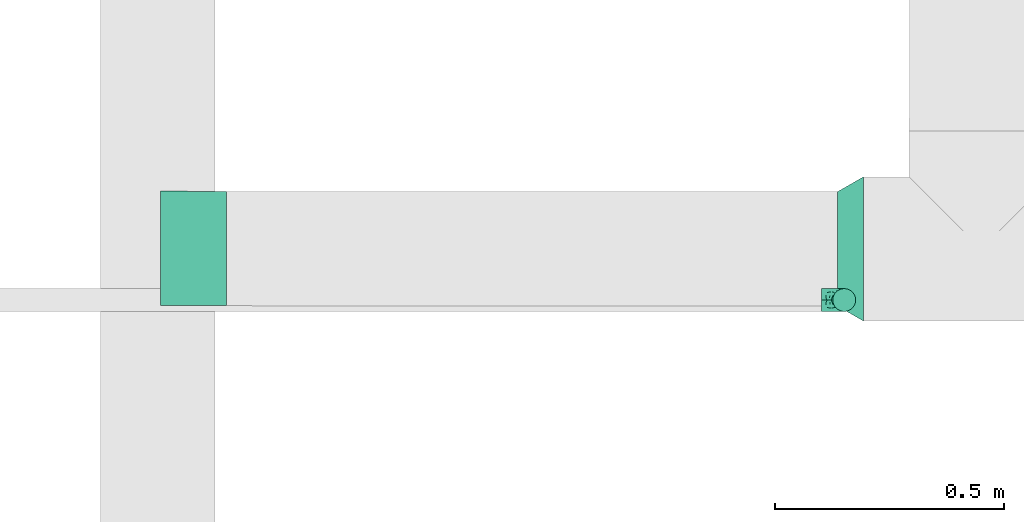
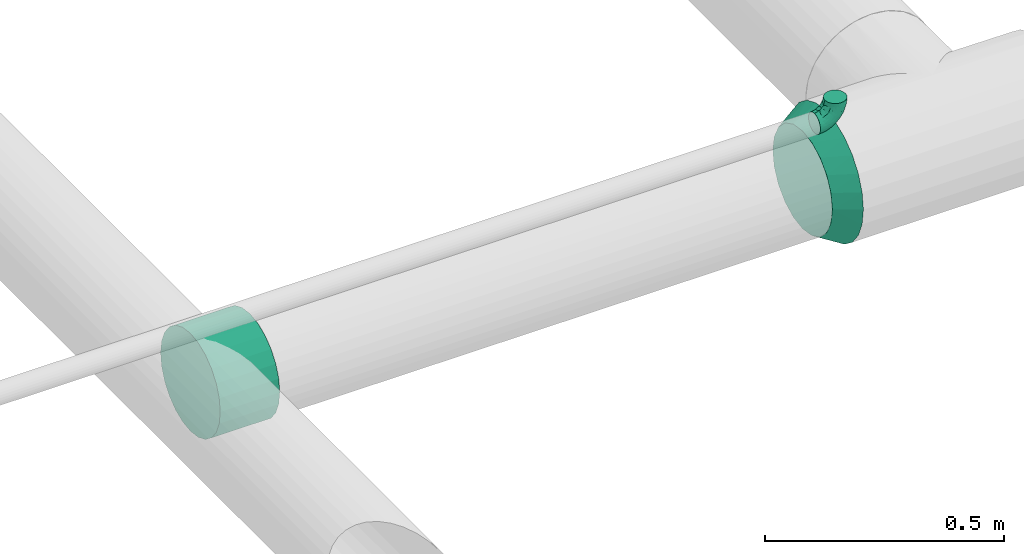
# One storey, part 26 of 63: 3 flow fittings.
"""IFC2X3 building model written with IfcOpenShell, lengths in millimetres."""

from ifc_helpers import new_model, entity, si_unit, converted_unit, derived_unit, direction, frame, origin_with_axes, place, context, subcontext, project, spatial, open_shell, surface_model, source, transform, mapped, type_object, element, save


model = new_model("IFC2X3")

# Units and contexts
model_context = context("Model", 3, precision=0.01, world=frame((0.0, 4.29681676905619e-09, 0.0)), true_north=direction((4.01073788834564e-13, 1.0)))
plan_context = context("Plan", 3, precision=0.01, world=frame((0.0, 4.29681676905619e-09, 0.0)), true_north=direction((4.01073788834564e-13, 1.0)))
body_context = subcontext(model_context, "Body", "Model", "MODEL_VIEW")
ifc_project = project(units=[converted_unit("PLANEANGLEUNIT", "DEGREE", entity("IfcPositiveLengthMeasure", 0.0174532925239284), si_unit("PLANEANGLEUNIT", "RADIAN"), dimensions=[0, 0, 0, 0, 0, 0, 0]), si_unit("AREAUNIT", "SQUARE_METRE"), si_unit("LENGTHUNIT", "METRE", prefix="MILLI"), si_unit("MASSUNIT", "GRAM", prefix="KILO"), si_unit("POWERUNIT", "WATT"), si_unit("PRESSUREUNIT", "PASCAL"), si_unit("FORCEUNIT", "NEWTON", prefix="KILO"), si_unit("ELECTRICVOLTAGEUNIT", "VOLT"), si_unit("ELECTRICCURRENTUNIT", "AMPERE"), si_unit("THERMODYNAMICTEMPERATUREUNIT", "DEGREE_CELSIUS"), si_unit("TIMEUNIT", "SECOND"), si_unit("VOLUMEUNIT", "CUBIC_METRE"), derived_unit("LINEARVELOCITYUNIT", [(si_unit("LENGTHUNIT", "METRE"), 1), (si_unit("TIMEUNIT", "SECOND"), -1)]), derived_unit("VOLUMETRICFLOWRATEUNIT", [(si_unit("VOLUMEUNIT", "CUBIC_METRE"), 1), (si_unit("TIMEUNIT", "SECOND"), -1)]), derived_unit("THERMALTRANSMITTANCEUNIT", [(si_unit("POWERUNIT", "WATT"), 1), (si_unit("THERMODYNAMICTEMPERATUREUNIT", "KELVIN"), -1), (si_unit("AREAUNIT", "SQUARE_METRE"), -1)]), derived_unit("SOUNDPRESSUREUNIT", [(si_unit("PRESSUREUNIT", "PASCAL"), 1)])], contexts=[model_context, plan_context])

# Site, building, storey
site_placement = place(None, frame((0.0, -4.29681676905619e-09, 0.0), z_axis=(0.0, 0.0, 1.0), x_axis=(1.0, 0.0, 0.0)))
site = spatial("IfcSite", under=ifc_project, at=site_placement, CompositionType="ELEMENT")
building_placement = place(site_placement, frame((0.0, 4.29681676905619e-09, 0.0), z_axis=(0.0, 0.0, 1.0), x_axis=(1.0, 0.0, 0.0)))
building = spatial("IfcBuilding", under=site, at=building_placement, Name="mc-building", CompositionType="ELEMENT")
storey_placement = place(building_placement, frame((0.0, 0.0, 210900.0), z_axis=(0.0, 0.0, 1.0), x_axis=(1.0, 0.0, 0.0)))
storey = spatial("IfcBuildingStorey", under=building, at=storey_placement, Name="Nivå F", CompositionType="ELEMENT", Elevation=210900.0)

# Flow fittings
duct_fitting_type_1 = type_object("IfcDuctFittingType", Name="magicirc_reduction_001", PredefinedType="TRANSITION")
shared_shape_1 = source(origin_with_axes(), body_context, "Body", "SurfaceModel", [
    surface_model("IfcShellBasedSurfaceModel", [(0.0, 78.75, 136.39901), (0.0, 157.5, 0.0), (0.0, 40.764, 152.13332), (0.0, -78.75, 136.39901), (0.0, -152.13332, -40.764), (0.0, -111.36932, 111.36932), (0.0, -136.39901, 78.75), (0.0, -152.13332, 40.764), (0.0, -157.5, 0.0), (0.0, 152.13332, -40.764), (0.0, 136.39901, -78.75), (0.0, 0.0, -157.5), (0.0, 111.36932, -111.36932), (0.0, 78.75, -136.39901), (0.0, 40.764, -152.13332), (0.0, -136.39901, -78.75), (0.0, -78.75, -136.39901), (0.0, -111.36932, -111.36932), (0.0, -40.764, -152.13332), (0.0, 0.0, 157.5), (56.29165, 38.62713, 118.88206), (56.29165, -38.62713, 118.88206), (56.29165, -73.47315, 101.12712), (56.29165, -101.12712, 73.47315), (56.29165, -118.88206, 38.62713), (56.29165, -125.0, 0.0), (56.29165, 0.0, 125.0), (56.29165, 118.88206, -38.62713), (56.29165, 73.47315, 101.12712), (56.29165, 101.12712, 73.47315), (56.29165, 118.88206, 38.62713), (56.29165, -118.88206, -38.62713), (56.29165, -101.12712, -73.47315), (56.29165, 0.0, -125.0), (56.29165, -73.47315, -101.12712), (56.29165, -38.62713, -118.88206), (56.29165, 125.0, 0.0), (56.29165, 73.47315, -101.12712), (56.29165, 101.12712, -73.47315), (56.29165, 38.62713, -118.88206), (0.0, 136.39901, 78.75), (0.0, 111.36932, 111.36932), (0.0, -40.764, 152.13332), (0.0, 152.13332, 40.764)], [open_shell([[[0, 1, 2]], [[3, 4, 5]], [[6, 5, 4]], [[6, 4, 7]], [[7, 4, 8]], [[1, 9, 10]], [[11, 12, 13]], [[14, 11, 13]], [[15, 16, 17]], [[16, 11, 18]], [[1, 4, 19]], [[20, 21, 22]], [[23, 24, 25]], [[23, 25, 22]], [[20, 22, 25]], [[26, 21, 20]], [[20, 27, 28]], [[28, 27, 29]], [[27, 30, 29]], [[25, 27, 20]], [[31, 32, 33]], [[34, 35, 33]], [[34, 33, 32]], [[33, 27, 25]], [[30, 27, 36]], [[33, 37, 38]], [[38, 27, 33]], [[37, 33, 39]], [[25, 31, 33]], [[1, 19, 2]], [[40, 1, 41]], [[41, 1, 0]], [[5, 19, 4]], [[19, 5, 3]], [[3, 42, 19]], [[5, 4, 6]], [[8, 7, 4]], [[1, 40, 43]], [[1, 10, 14]], [[13, 14, 10]], [[13, 10, 12]], [[1, 14, 4]], [[14, 17, 15]], [[15, 4, 14]], [[14, 16, 17]], [[18, 16, 14]], [[11, 18, 14]], [[35, 34, 16]], [[33, 35, 18]], [[18, 11, 33]], [[16, 18, 35]], [[34, 17, 16]], [[31, 25, 4]], [[32, 31, 15]], [[15, 17, 32]], [[4, 15, 31]], [[25, 8, 4]], [[32, 17, 34]], [[27, 38, 10]], [[36, 27, 9]], [[9, 1, 36]], [[10, 9, 27]], [[38, 12, 10]], [[39, 33, 14]], [[37, 39, 13]], [[13, 12, 37]], [[14, 13, 39]], [[33, 11, 14]], [[37, 12, 38]], [[20, 28, 0]], [[26, 20, 2]], [[2, 19, 26]], [[0, 2, 20]], [[28, 41, 0]], [[30, 36, 43]], [[29, 30, 40]], [[40, 41, 29]], [[43, 40, 30]], [[36, 1, 43]], [[29, 41, 28]], [[24, 23, 6]], [[25, 24, 7]], [[7, 8, 25]], [[6, 7, 24]], [[23, 5, 6]], [[21, 26, 42]], [[22, 21, 3]], [[3, 5, 22]], [[42, 3, 21]], [[26, 19, 42]], [[22, 5, 23]], [[42, 19, 2]], [[0, 42, 2]], [[0, 41, 1]], [[0, 1, 42]], [[42, 4, 3]], [[11, 1, 9]], [[10, 11, 9]], [[12, 11, 10]], [[11, 15, 4]], [[11, 16, 15]], [[4, 1, 11]], [[1, 4, 42]], [[21, 22, 25]], [[21, 25, 26]], [[20, 26, 28]], [[26, 29, 28]], [[30, 29, 27]], [[27, 29, 26]], [[26, 25, 35]], [[31, 32, 34]], [[35, 27, 26]], [[35, 31, 34]], [[39, 35, 33]], [[35, 38, 27]], [[35, 37, 38]], [[39, 37, 35]], [[25, 31, 35]], [[25, 7, 8]], [[7, 24, 6]], [[19, 42, 26]], [[3, 21, 42]], [[26, 2, 19]], [[2, 20, 0]], [[1, 43, 36]], [[40, 30, 43]], [[36, 9, 1]], [[9, 27, 10]], [[11, 14, 33]], [[13, 39, 14]], [[33, 18, 11]], [[18, 35, 16]], [[8, 4, 25]], [[15, 31, 4]], [[26, 21, 22]], [[26, 23, 20]], [[23, 26, 22]], [[23, 27, 29]], [[28, 20, 29]], [[29, 36, 30]], [[29, 20, 23]], [[29, 27, 36]], [[23, 31, 27]], [[32, 34, 35]], [[27, 31, 32]], [[33, 32, 35]], [[38, 27, 37]], [[33, 37, 27]], [[27, 32, 33]], [[31, 23, 25]], [[41, 19, 2]], [[41, 2, 0]], [[19, 40, 4]], [[40, 19, 41]], [[7, 19, 4]], [[42, 5, 3]], [[42, 19, 5]], [[5, 7, 6]], [[19, 7, 5]], [[43, 10, 40]], [[9, 10, 43]], [[40, 10, 4]], [[4, 10, 13]], [[18, 13, 14]], [[4, 17, 15]], [[17, 4, 16]], [[13, 18, 16]], [[16, 4, 13]], [[43, 1, 9]], [[13, 37, 39]], [[38, 37, 12]], [[33, 14, 39]], [[27, 10, 9]], [[37, 13, 12]], [[11, 33, 18]], [[18, 33, 35]], [[34, 16, 35]], [[15, 32, 31]], [[17, 34, 32]], [[4, 31, 25]], [[17, 32, 15]], [[31, 4, 15]], [[3, 22, 21]], [[23, 22, 5]], [[26, 42, 21]], [[24, 6, 7]], [[22, 3, 5]], [[19, 26, 2]], [[2, 26, 20]], [[28, 0, 20]], [[40, 29, 30]], [[41, 28, 29]], [[43, 30, 36]], [[41, 29, 40]], [[30, 43, 40]]])]),
])
flow_fitting_1_placement = place(storey_placement, frame((532045.8409, 452594.02196, 4200.0), z_axis=(0.0, 0.0, 1.0), x_axis=(-0.999999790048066, 0.000647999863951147, 0.0)))
element("IfcFlowFitting", 1, at=flow_fitting_1_placement, inside=storey, type_object=duct_fitting_type_1, Name="magicirc_reduction_001", context=body_context, shape_type="MappedRepresentation", body=[
    mapped(shared_shape_1, transform((0.0, 0.0, 0.0), scale=1.0)),
])
duct_fitting_type_2 = type_object("IfcDuctFittingType", Name="magicirc_tapoutlet_001", PredefinedType="CONNECTOR")
shared_shape_2 = source(origin_with_axes(), body_context, "Body", "SurfaceModel", [
    surface_model("IfcShellBasedSurfaceModel", [(-118.904, 0.0, -125.0), (-118.904, -32.35238, -120.74073), (-118.904, 32.35238, -120.74073), (-118.904, 120.74073, 32.35238), (-118.904, 62.5, -108.25318), (-118.904, 88.38835, -88.38835), (-118.904, 108.25318, -62.5), (-118.904, -125.0, 0.0), (-118.904, -120.74073, 32.35238), (-118.904, -88.38835, -88.38835), (-118.904, -62.5, -108.25318), (-118.904, -120.74073, -32.35238), (-118.904, -108.25318, -62.5), (-118.904, 120.74073, -32.35238), (-118.904, 108.25318, 62.5), (-118.904, 62.5, 108.25318), (-118.904, 32.35238, 120.74073), (-118.904, 88.38835, 88.38835), (-118.904, 0.0, 125.0), (-118.904, -108.25318, 62.5), (-118.904, -88.38835, 88.38835), (-118.904, -32.35238, 120.74073), (-118.904, -62.5, 108.25318), (-118.904, 125.0, 0.0), (0.0, 0.0, 125.0), (0.0, 32.35238, 120.74073), (0.0, 62.5, 108.25318), (0.0, 88.38835, 88.38835), (0.0, 108.25318, 62.5), (0.0, 120.74073, 32.35238), (0.0, 125.0, 0.0), (0.0, 120.74073, -32.35238), (0.0, 108.25318, -62.5), (0.0, 88.38835, -88.38835), (0.0, 62.5, -108.25318), (0.0, 32.35238, -120.74073), (0.0, 0.0, -125.0), (0.0, -32.35238, -120.74073), (0.0, -62.5, -108.25318), (0.0, -88.38835, -88.38835), (0.0, -108.25318, -62.5), (0.0, -120.74073, -32.35238), (0.0, -125.0, 0.0), (0.0, -120.74073, 32.35238), (0.0, -108.25318, 62.5), (0.0, -88.38835, 88.38835), (0.0, -62.5, 108.25318), (0.0, -32.35238, 120.74073), (25.0, 62.5, -108.25318), (25.0, 125.0, 0.0), (25.0, 32.35238, -120.74073), (25.0, -88.38835, -88.38835), (25.0, 0.0, -125.0), (25.0, -120.74073, 32.35238), (25.0, -62.5, -108.25318), (25.0, -32.35238, -120.74073), (25.0, -108.25318, -62.5), (25.0, -120.74073, -32.35238), (25.0, -125.0, 0.0), (25.0, 108.25318, -62.5), (25.0, 120.74073, -32.35238), (25.0, 120.74073, 32.35238), (25.0, 108.25318, 62.5), (25.0, 88.38835, 88.38835), (25.0, 32.35238, 120.74073), (25.0, 62.5, 108.25318), (25.0, -62.5, 108.25318), (25.0, -88.38835, 88.38835), (25.0, -108.25318, 62.5), (25.0, 0.0, 125.0), (25.0, -32.35238, 120.74073), (25.0, 88.38835, -88.38835)], [open_shell([[[0, 1, 2]], [[2, 3, 4]], [[5, 3, 6]], [[4, 3, 5]], [[2, 7, 8]], [[9, 7, 10]], [[2, 1, 10]], [[11, 7, 12]], [[9, 12, 7]], [[10, 7, 2]], [[13, 6, 3]], [[14, 3, 2]], [[15, 14, 2]], [[15, 2, 16]], [[17, 14, 15]], [[18, 16, 2]], [[8, 19, 2]], [[19, 20, 2]], [[21, 18, 22]], [[20, 22, 18]], [[2, 20, 18]], [[23, 13, 3]], [[16, 24, 25]], [[15, 25, 26]], [[18, 24, 16]], [[16, 25, 15]], [[26, 17, 15]], [[26, 27, 17]], [[3, 28, 29]], [[23, 29, 30]], [[27, 14, 17]], [[27, 28, 14]], [[14, 28, 3]], [[29, 23, 3]], [[31, 32, 6]], [[30, 31, 23]], [[23, 31, 13]], [[5, 6, 32]], [[31, 6, 13]], [[32, 33, 5]], [[2, 34, 35]], [[0, 35, 36]], [[33, 4, 5]], [[33, 34, 4]], [[4, 34, 2]], [[35, 0, 2]], [[1, 36, 37]], [[10, 37, 38]], [[0, 36, 1]], [[1, 37, 10]], [[38, 9, 10]], [[38, 39, 9]], [[11, 40, 41]], [[7, 41, 42]], [[39, 12, 9]], [[39, 40, 12]], [[12, 40, 11]], [[41, 7, 11]], [[8, 42, 43]], [[19, 43, 44]], [[7, 42, 8]], [[8, 43, 19]], [[44, 20, 19]], [[44, 45, 20]], [[21, 46, 47]], [[18, 47, 24]], [[45, 22, 20]], [[45, 46, 22]], [[22, 46, 21]], [[47, 18, 21]], [[2, 17, 14]], [[15, 17, 2]], [[2, 20, 22]], [[18, 2, 22]], [[48, 49, 50]], [[51, 52, 53]], [[52, 51, 54]], [[54, 55, 52]], [[56, 53, 57]], [[53, 58, 57]], [[49, 59, 60]], [[61, 62, 52]], [[52, 62, 63]], [[64, 52, 65]], [[52, 63, 65]], [[66, 52, 64]], [[67, 68, 52]], [[64, 69, 70]], [[24, 69, 64]], [[25, 64, 65]], [[24, 64, 25]], [[26, 63, 27]], [[26, 25, 65]], [[63, 26, 65]], [[28, 62, 61]], [[29, 61, 49]], [[27, 62, 28]], [[29, 28, 61]], [[30, 29, 49]], [[62, 27, 63]], [[30, 49, 60]], [[31, 60, 59]], [[30, 60, 31]], [[32, 71, 33]], [[32, 31, 59]], [[71, 32, 59]], [[50, 52, 36]], [[48, 50, 35]], [[33, 48, 34]], [[36, 35, 50]], [[48, 35, 34]], [[48, 33, 71]], [[36, 52, 55]], [[37, 55, 54]], [[36, 55, 37]], [[38, 51, 39]], [[38, 37, 54]], [[51, 38, 54]], [[40, 56, 57]], [[41, 57, 58]], [[39, 56, 40]], [[41, 40, 57]], [[42, 41, 58]], [[56, 39, 51]], [[42, 58, 53]], [[43, 53, 68]], [[42, 53, 43]], [[44, 67, 45]], [[44, 43, 68]], [[67, 44, 68]], [[46, 66, 70]], [[47, 70, 69]], [[45, 66, 46]], [[47, 46, 70]], [[24, 47, 69]], [[66, 45, 67]], [[56, 51, 53]], [[58, 57, 53]], [[67, 52, 66]], [[64, 70, 66]], [[49, 61, 52]], [[50, 49, 52]], [[71, 59, 49]], [[71, 49, 48]], [[52, 54, 55]], [[52, 62, 65]], [[65, 62, 63]], [[52, 64, 66]], [[52, 68, 53]], [[62, 52, 61]], [[65, 64, 52]], [[52, 67, 68]], [[52, 66, 67]], [[69, 70, 64]], [[52, 49, 61]]])]),
])
flow_fitting_2_placement = place(storey_placement, frame((530629.74813, 452594.93923, 4200.0), z_axis=(0.0, 0.0, -1.0), x_axis=(0.999999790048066, -0.000647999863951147, 0.0)))
element("IfcFlowFitting", 2, at=flow_fitting_2_placement, inside=storey, type_object=duct_fitting_type_2, Name="magicirc_tapoutlet_001", context=body_context, shape_type="MappedRepresentation", body=[
    mapped(shared_shape_2, transform((0.0, 0.0, 0.0), scale=1.0)),
])
duct_fitting_type_3 = type_object("IfcDuctFittingType", Name="magicirc_elbow_full_radius_001", PredefinedType="BEND")
shared_shape_3 = source(origin_with_axes(), body_context, "Body", "SurfaceModel", [
    surface_model("IfcShellBasedSurfaceModel", [(-50.0, -6.47048, 24.14815), (-50.0, 0.0, 25.0), (-50.0, 6.47048, 24.14815), (-50.0, 25.0, 0.0), (-50.0, 24.14815, -6.47048), (-50.0, 24.14815, 6.47048), (-50.0, 6.47048, -24.14815), (-50.0, 0.0, -25.0), (-50.0, 12.5, -21.65064), (-50.0, 21.65064, -12.5), (-50.0, 17.67767, -17.67767), (-50.0, -17.67767, -17.67767), (-50.0, -12.5, -21.65064), (-50.0, -6.47048, -24.14815), (-50.0, -21.65064, -12.5), (-50.0, -24.14815, -6.47048), (-50.0, -24.14815, 6.47048), (-50.0, -25.0, 0.0), (-50.0, 21.65064, 12.5), (-50.0, 12.5, 21.65064), (-50.0, 17.67767, 17.67767), (-50.0, -12.5, 21.65064), (-50.0, -21.65064, 12.5), (-50.0, -17.67767, 17.67767), (-24.14815, 50.0, -6.47048), (0.0, 50.0, -25.0), (-6.47048, 50.0, -24.14815), (-12.5, 50.0, -21.65064), (-21.65064, 50.0, -12.5), (-17.67767, 50.0, -17.67767), (17.67767, 50.0, -17.67767), (6.47048, 50.0, -24.14815), (12.5, 50.0, -21.65064), (24.14815, 50.0, -6.47048), (21.65064, 50.0, -12.5), (25.0, 50.0, 0.0), (-24.14815, 50.0, 6.47048), (24.14815, 50.0, 6.47048), (-6.47048, 50.0, 24.14815), (-21.65064, 50.0, 12.5), (-17.67767, 50.0, 17.67767), (-12.5, 50.0, 21.65064), (12.5, 50.0, 21.65064), (17.67767, 50.0, 17.67767), (21.65064, 50.0, 12.5), (6.47048, 50.0, 24.14815), (0.0, 50.0, 25.0), (-25.0, 50.0, 0.0), (-36.67735, -19.42227, 14.03433), (-32.82968, -14.42335, 18.62892), (-35.64937, -22.14548, 0.0), (-22.09962, -15.92094, 12.6179), (-33.22625, -21.82028, 7.797), (21.82028, 33.22625, 7.797), (17.64067, 19.58414, 6.40882), (19.29096, 21.29874, 0.0), (-24.43766, 39.90136, 10.86587), (-20.88421, 38.92216, 16.42417), (-36.74567, -9.45359, 22.49231), (-38.192, -3.31182, 24.57244), (-35.00811, 3.83216, 24.95739), (-9.13287, -11.16199, 0.0), (-19.58414, -17.64067, 6.40882), (-21.29874, -19.29096, 0.0), (-19.31524, -6.06759, 20.7695), (-24.88984, -0.22435, 24.23133), (-2.15147, -4.22615, 11.26442), (-0.41902, 0.51586, 14.93357), (-8.49829, -5.98681, 15.40266), (-39.08085, 20.84056, 16.4067), (-8.68866, 24.58498, 24.95514), (-18.51786, 18.51786, 24.39255), (-14.88627, 10.92479, 24.87122), (-43.25329, 15.13957, 20.3706), (-9.33205, 43.12334, 23.41697), (-3.42635, 37.39647, 24.9386), (-39.91378, 24.43361, 10.86421), (-39.52416, 26.62869, 5.49664), (-31.04081, 31.04081, 9.34521), (-38.53768, 9.80489, 23.61608), (-6.5257, 16.74435, 24.54744), (-12.42199, 4.5863, 23.34496), (-2.55398, 13.50681, 22.9747), (-4.46571, 4.46571, 20.43962), (14.42335, 32.82968, 18.62892), (15.92094, 22.09962, 12.6179), (19.42227, 36.67735, 14.03433), (-26.57791, 16.96315, 23.12353), (-27.47187, 10.70867, 24.55261), (3.31182, 38.192, 24.57244), (9.45359, 36.74567, 22.49231), (6.06759, 19.31524, 20.7695), (22.14548, 35.64937, 0.0), (-24.53158, 6.12607, 24.98933), (-23.14362, 26.40038, 20.54252), (-34.42614, 16.97043, 21.05258), (-26.31567, 40.33071, 5.36329), (-31.33209, 32.79034, 4.39983), (11.41104, 20.24921, 17.09898), (-28.34936, 37.5, 0.0), (-10.81204, 33.87561, 23.80901), (-14.26605, 25.87925, 24.03265), (-18.12489, 32.31264, 21.01179), (-19.91717, 24.20374, 22.74716), (-15.27322, 41.92094, 20.47431), (-20.24921, -11.41104, 17.09898), (-25.92754, 33.13968, 14.14974), (-26.35258, 27.91972, 17.70863), (-32.10875, 26.86285, 13.94058), (0.22435, 24.88984, 24.23133), (5.69292, 8.68334, 15.83541), (-11.86567, -11.15996, 11.73483), (1.48439, -3.24717, 6.76648), (7.59176, 4.45273, 8.73079), (7.75387, 2.59512, 3.74652), (12.87658, 10.42821, 5.90505), (12.55206, 12.96891, 10.49254), (-37.5, 28.34936, 0.0), (-6.73798, -9.94178, 7.2586), (3.03301, -3.03301, 0.0), (11.16199, 9.13287, 0.0), (-20.24921, -11.41104, -17.09898), (-32.82968, -14.42335, -18.62892), (-19.31524, -6.06759, -20.7695), (-22.09962, -15.92095, -12.6179), (-38.92216, 20.88421, -16.42417), (-41.92094, 15.27322, -20.47431), (-40.33071, 26.31567, -5.36329), (-33.22625, -21.82028, -7.797), (-31.04081, 31.0408, -9.34521), (-39.90136, 24.43766, -10.86587), (-19.58414, -17.64067, -6.40882), (-24.20374, 19.91717, -22.74716), (-25.87925, 14.26604, -24.03266), (-32.31264, 18.12489, -21.01179), (-15.13957, 43.25329, -20.3706), (-20.84057, 39.08085, -16.4067), (9.45359, 36.74567, -22.49231), (6.06759, 19.31524, -20.7695), (0.22435, 24.88984, -24.23133), (-43.12334, 9.33205, -23.41697), (-36.67735, -19.42227, -14.03433), (-36.74567, -9.45359, -22.49231), (-16.96315, 26.5779, -23.12354), (-9.80489, 38.53768, -23.61608), (-10.70867, 27.47187, -24.55261), (-38.192, -3.31182, -24.57244), (-24.58498, 8.68866, -24.95514), (-18.51786, 18.51786, -24.39255), (-10.92479, 14.88627, -24.87122), (-37.39647, 3.42635, -24.9386), (-26.62869, 39.52416, -5.49664), (-24.43361, 39.91378, -10.86421), (-33.87561, 10.81204, -23.80901), (-32.79034, 31.33209, -4.39983), (-6.12607, 24.53158, -24.98933), (-26.40038, 23.14362, -20.54252), (-16.97043, 34.42613, -21.05258), (3.31182, 38.192, -24.57244), (-3.83216, 35.00811, -24.95739), (19.42227, 36.67735, -14.03433), (14.42335, 32.82968, -18.62892), (7.75387, 2.59513, -3.74652), (12.87658, 10.42822, -5.90505), (-16.74435, 6.5257, -24.54744), (-4.5863, 12.42199, -23.34496), (-13.50681, 2.55398, -22.9747), (1.48439, -3.24717, -6.76647), (-6.73799, -9.94178, -7.2586), (-2.15147, -4.22615, -11.26442), (15.92094, 22.09962, -12.6179), (21.82028, 33.22625, -7.797), (17.64067, 19.58414, -6.40882), (-33.13968, 25.92753, -14.14974), (11.41104, 20.24921, -17.09898), (12.55206, 12.96891, -10.49254), (5.69292, 8.68334, -15.83541), (-27.91972, 26.35258, -17.70863), (-26.86285, 32.10875, -13.94058), (-24.88984, -0.22435, -24.23133), (-4.46571, 4.46571, -20.43962), (-8.49829, -5.98681, -15.40266), (-11.86568, -11.15996, -11.73483), (-0.41902, 0.51586, -14.93357), (7.59175, 4.45273, -8.73079)], [open_shell([[[0, 1, 2]], [[3, 4, 5]], [[6, 7, 4]], [[8, 6, 4]], [[8, 4, 9]], [[10, 8, 9]], [[11, 4, 7]], [[12, 11, 13]], [[11, 7, 13]], [[14, 15, 11]], [[15, 16, 11]], [[17, 16, 15]], [[4, 11, 5]], [[5, 11, 16]], [[18, 5, 2]], [[2, 19, 20]], [[18, 2, 20]], [[2, 5, 21]], [[22, 23, 16]], [[21, 16, 23]], [[16, 21, 5]], [[21, 0, 2]], [[24, 25, 26]], [[24, 26, 27]], [[28, 24, 27]], [[28, 27, 29]], [[25, 24, 30]], [[31, 30, 32]], [[31, 25, 30]], [[30, 33, 34]], [[24, 33, 30]], [[24, 35, 33]], [[24, 36, 35]], [[37, 35, 36]], [[38, 36, 39]], [[40, 41, 38]], [[40, 38, 39]], [[42, 36, 38]], [[37, 43, 44]], [[43, 37, 42]], [[36, 42, 37]], [[38, 45, 42]], [[38, 46, 45]], [[36, 24, 47]], [[23, 48, 49]], [[16, 17, 50]], [[51, 48, 52]], [[53, 54, 55]], [[48, 23, 22]], [[16, 52, 22]], [[39, 56, 57]], [[49, 21, 23]], [[49, 58, 21]], [[1, 59, 60]], [[61, 62, 63]], [[58, 64, 65]], [[66, 67, 68]], [[18, 20, 69]], [[70, 71, 72]], [[19, 73, 20]], [[0, 59, 1]], [[38, 74, 75]], [[1, 60, 2]], [[18, 69, 76]], [[20, 73, 69]], [[3, 5, 77]], [[5, 18, 76]], [[77, 76, 78]], [[2, 79, 19]], [[80, 81, 82]], [[68, 83, 64]], [[84, 43, 42]], [[85, 86, 84]], [[87, 79, 88]], [[21, 58, 0]], [[46, 89, 45]], [[53, 37, 44]], [[46, 38, 75]], [[84, 90, 91]], [[44, 86, 53]], [[92, 37, 53]], [[86, 44, 43]], [[90, 42, 45]], [[53, 55, 92]], [[88, 93, 72]], [[54, 53, 85]], [[87, 94, 95]], [[78, 96, 97]], [[98, 84, 91]], [[99, 96, 47]], [[79, 2, 60]], [[96, 78, 56]], [[62, 52, 63]], [[57, 40, 39]], [[100, 70, 75]], [[101, 102, 103]], [[16, 50, 52]], [[104, 41, 40]], [[74, 38, 41]], [[57, 102, 104]], [[105, 64, 49]], [[90, 84, 42]], [[39, 36, 56]], [[56, 106, 57]], [[102, 57, 107]], [[95, 107, 69]], [[76, 108, 78]], [[100, 101, 70]], [[89, 75, 109]], [[64, 58, 49]], [[63, 52, 50]], [[59, 58, 65]], [[105, 49, 51]], [[64, 83, 81]], [[89, 90, 45]], [[35, 37, 92]], [[109, 82, 91]], [[109, 91, 90]], [[91, 83, 110]], [[111, 68, 105]], [[66, 68, 111]], [[62, 51, 52]], [[66, 112, 113]], [[114, 115, 113]], [[98, 85, 84]], [[52, 48, 22]], [[49, 48, 51]], [[84, 86, 43]], [[53, 86, 85]], [[88, 79, 60]], [[73, 79, 95]], [[96, 56, 36]], [[78, 108, 106]], [[87, 103, 94]], [[100, 74, 104]], [[108, 69, 107]], [[78, 97, 77]], [[88, 72, 71]], [[109, 75, 70]], [[81, 72, 65]], [[70, 72, 80]], [[75, 89, 46]], [[90, 89, 109]], [[58, 59, 0]], [[60, 59, 65]], [[67, 83, 68]], [[110, 113, 116]], [[88, 60, 93]], [[87, 88, 71]], [[103, 87, 71]], [[79, 87, 95]], [[101, 103, 71]], [[94, 103, 102]], [[47, 96, 36]], [[96, 99, 97]], [[99, 117, 97]], [[97, 117, 77]], [[3, 77, 117]], [[5, 76, 77]], [[60, 65, 93]], [[65, 72, 93]], [[70, 101, 71]], [[102, 101, 100]], [[69, 108, 76]], [[106, 108, 107]], [[57, 106, 107]], [[78, 106, 56]], [[57, 104, 40]], [[100, 104, 102]], [[102, 107, 94]], [[95, 94, 107]], [[64, 81, 65]], [[82, 81, 83]], [[91, 82, 83]], [[80, 82, 109]], [[70, 80, 109]], [[81, 80, 72]], [[79, 73, 19]], [[69, 73, 95]], [[104, 74, 41]], [[75, 74, 100]], [[62, 61, 118]], [[111, 62, 118]], [[113, 115, 116]], [[119, 118, 61]], [[111, 105, 51]], [[113, 112, 114]], [[120, 55, 54]], [[68, 64, 105]], [[91, 110, 98]], [[116, 98, 110]], [[62, 111, 51]], [[66, 111, 118]], [[112, 66, 118]], [[67, 113, 110]], [[118, 119, 112]], [[114, 112, 119]], [[119, 120, 114]], [[115, 120, 54]], [[120, 115, 114]], [[116, 54, 85]], [[54, 116, 115]], [[116, 85, 98]], [[113, 67, 66]], [[83, 67, 110]], [[121, 122, 123]], [[122, 121, 124]], [[9, 125, 10]], [[10, 126, 8]], [[117, 127, 3]], [[50, 15, 128]], [[127, 129, 130]], [[128, 131, 63]], [[132, 133, 134]], [[29, 135, 136]], [[137, 138, 139]], [[8, 140, 6]], [[128, 14, 141]], [[142, 12, 13]], [[128, 63, 50]], [[9, 4, 130]], [[14, 11, 141]], [[143, 144, 145]], [[146, 13, 7]], [[147, 148, 149]], [[14, 128, 15]], [[124, 141, 122]], [[150, 7, 6]], [[151, 152, 129]], [[125, 134, 126]], [[153, 147, 150]], [[127, 154, 129]], [[145, 155, 149]], [[47, 24, 151]], [[143, 156, 157]], [[152, 24, 28]], [[25, 158, 159]], [[122, 11, 12]], [[29, 27, 135]], [[144, 27, 26]], [[30, 160, 161]], [[25, 31, 158]], [[120, 162, 163]], [[130, 125, 9]], [[29, 136, 28]], [[6, 140, 150]], [[32, 161, 137]], [[142, 122, 12]], [[25, 159, 26]], [[164, 165, 166]], [[167, 168, 169]], [[34, 160, 30]], [[161, 32, 30]], [[170, 160, 171]], [[131, 128, 124]], [[35, 92, 33]], [[33, 92, 171]], [[172, 171, 55]], [[33, 171, 34]], [[144, 26, 159]], [[130, 173, 125]], [[174, 175, 176]], [[136, 152, 28]], [[32, 137, 31]], [[122, 142, 123]], [[134, 125, 177]], [[157, 177, 136]], [[152, 178, 129]], [[153, 133, 147]], [[146, 150, 179]], [[146, 142, 13]], [[17, 15, 50]], [[179, 166, 123]], [[179, 123, 142]], [[123, 180, 181]], [[138, 137, 161]], [[55, 171, 92]], [[158, 137, 139]], [[174, 161, 170]], [[138, 180, 165]], [[180, 138, 176]], [[124, 121, 182]], [[176, 183, 180]], [[61, 131, 168]], [[169, 168, 182]], [[172, 170, 171]], [[122, 141, 11]], [[128, 141, 124]], [[171, 160, 34]], [[161, 160, 170]], [[145, 144, 159]], [[135, 144, 157]], [[127, 130, 4]], [[129, 178, 173]], [[143, 132, 156]], [[153, 140, 126]], [[178, 136, 177]], [[129, 154, 151]], [[145, 149, 148]], [[179, 150, 147]], [[165, 149, 139]], [[147, 149, 164]], [[150, 146, 7]], [[142, 146, 179]], [[137, 158, 31]], [[159, 158, 139]], [[174, 138, 161]], [[184, 169, 183]], [[145, 159, 155]], [[143, 145, 148]], [[132, 143, 148]], [[144, 143, 157]], [[133, 132, 148]], [[156, 132, 134]], [[3, 127, 4]], [[127, 117, 154]], [[117, 99, 154]], [[154, 99, 151]], [[47, 151, 99]], [[24, 152, 151]], [[159, 139, 155]], [[139, 149, 155]], [[147, 133, 148]], [[134, 133, 153]], [[136, 178, 152]], [[173, 178, 177]], [[125, 173, 177]], [[129, 173, 130]], [[125, 126, 10]], [[153, 126, 134]], [[134, 177, 156]], [[157, 156, 177]], [[138, 165, 139]], [[166, 165, 180]], [[123, 166, 180]], [[164, 166, 179]], [[147, 164, 179]], [[165, 164, 149]], [[144, 135, 27]], [[136, 135, 157]], [[126, 140, 8]], [[150, 140, 153]], [[182, 131, 124]], [[168, 119, 61]], [[119, 167, 162]], [[63, 131, 61]], [[172, 163, 175]], [[172, 55, 120]], [[123, 181, 121]], [[182, 121, 181]], [[175, 174, 170]], [[176, 138, 174]], [[169, 182, 181]], [[131, 182, 168]], [[183, 169, 181]], [[167, 169, 184]], [[162, 167, 184]], [[119, 168, 167]], [[163, 162, 184]], [[120, 119, 162]], [[175, 163, 184]], [[120, 163, 172]], [[176, 175, 184]], [[172, 175, 170]], [[180, 183, 181]], [[184, 183, 176]]])]),
])
flow_fitting_3_placement = place(storey_placement, frame((532004.01393, 452482.42641, 4425.0), z_axis=(0.0, -1.0, 0.0), x_axis=(1.0, 0.0, 0.0)))
element("IfcFlowFitting", 3, at=flow_fitting_3_placement, inside=storey, type_object=duct_fitting_type_3, Name="magicirc_elbow_full_radius_001", context=body_context, shape_type="MappedRepresentation", body=[
    mapped(shared_shape_3, transform((0.0, 0.0, 0.0), scale=1.0)),
])

save(model, "model.ifc")
